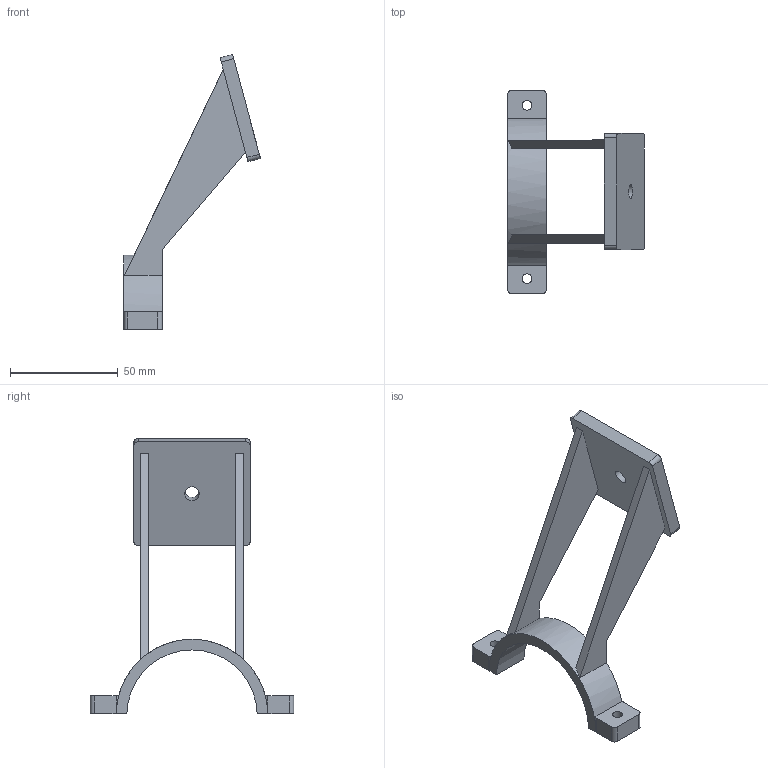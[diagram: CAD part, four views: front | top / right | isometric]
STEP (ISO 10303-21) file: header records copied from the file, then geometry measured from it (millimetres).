
FILE_DESCRIPTION(('Open CASCADE Model'),'2;1');
FILE_NAME('Open CASCADE Shape Model','2026-09-19T13:10:39',('Author'),( 'Open CASCADE'),'Open CASCADE STEP processor 7.9','Open CASCADE 7.9' ,'Unknown');
FILE_SCHEMA(('AUTOMOTIVE_DESIGN { 1 0 10303 214 1 1 1 1 }'));
Length unit declared in the file: millimetre
Products named in the file (1): Open CASCADE STEP translator 7.9 6
Bounding box: 63.63 x 94.6 x 127.88 mm (x, y, z)
Volume: 41428.6 mm3; surface area: 20353.2 mm2
Topology: 1 solids, 1 shells, 43 faces, 123 edges, 82 vertices
Faces by surface type: plane 26, cylinder 17
Full cylindrical faces by diameter (mm): 4.5 x2, 6.8 x1
Entity records: 3268 total; most frequent: CARTESIAN_POINT 877, DIRECTION 427, ORIENTED_EDGE 246, PCURVE 246, DEFINITIONAL_REPRESENTATION 246, LINE 243, VECTOR 243, EDGE_CURVE 123
